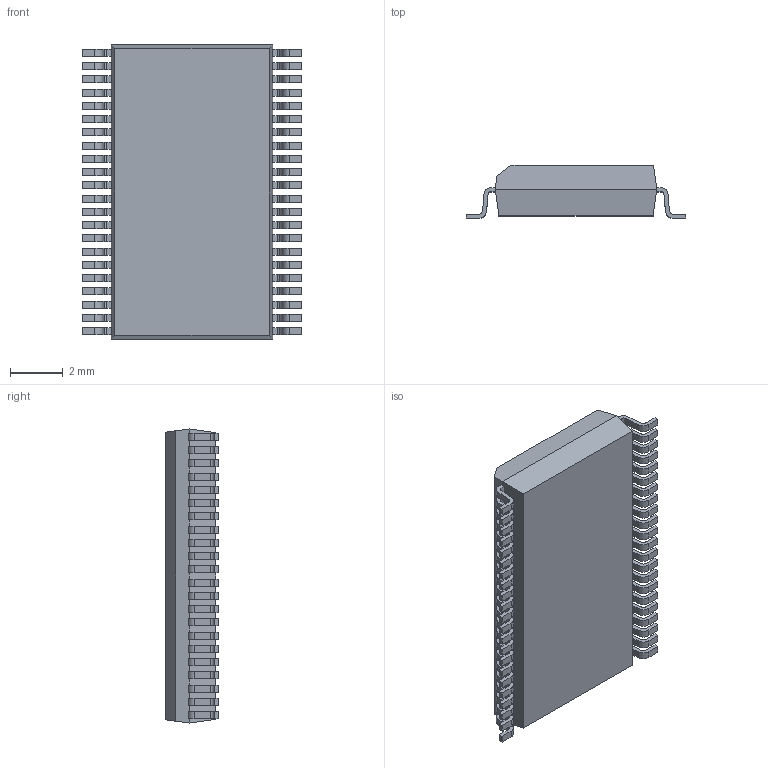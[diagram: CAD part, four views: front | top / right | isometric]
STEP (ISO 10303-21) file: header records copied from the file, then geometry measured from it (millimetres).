
FILE_DESCRIPTION (( 'STEP AP214' ), '1' );
FILE_NAME ('SSOP50P810X200-44_MO-152.EC-1.STEP', '2014-10-30T11:26:29', ( 'Tester2' ), ( '' ), 'SwSTEP 2.0', 'SolidWorks 2012', '' );
FILE_SCHEMA (( 'AUTOMOTIVE_DESIGN' ));
Length unit declared in the file: millimetre
Products named in the file (1): SSOP50P810X200-44_MO-152.EC-1
Bounding box: 8.3 x 2 x 11.1 mm (x, y, z)
Volume: 126.7 mm3; surface area: 258.6 mm2
Topology: 1 solids, 1 shells, 586 faces, 1745 edges, 1162 vertices
Faces by surface type: plane 408, cylinder 178
Entity records: 25952 total; most frequent: CARTESIAN_POINT 3494, ORIENTED_EDGE 3490, DIRECTION 3275, EDGE_CURVE 1745, LINE 1389, VECTOR 1389, VERTEX_POINT 1162, AXIS2_PLACEMENT_3D 943
